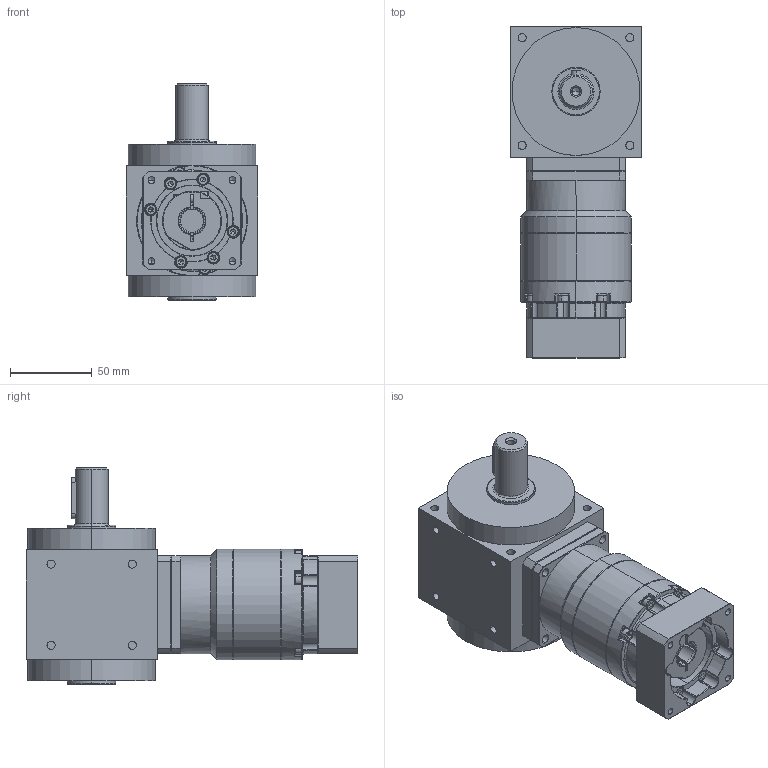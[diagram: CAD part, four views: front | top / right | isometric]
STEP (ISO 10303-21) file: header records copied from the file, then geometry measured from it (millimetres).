
FILE_DESCRIPTION (( 'STEP AP203' ), '1' );
FILE_NAME ('AAW080AS-L2-P 14-50-70-M5.STEP', '2024-12-23T09:28:02', ( '' ), ( '' ), 'SwSTEP 2.0', 'SolidWorks 2021', '' );
FILE_SCHEMA (( 'CONFIG_CONTROL_DESIGN' ));
Length unit declared in the file: millimetre
Products named in the file (3): AAW080AS-P; AAW080AS-L2-P 14-50-70-M5; VRB-060-L2-S2-P1 14-50-70-M5
Assembly tree (2 placements, depth 2):
  AAW080AS-L2-P 14-50-70-M5
    AAW080AS-P
    VRB-060-L2-S2-P1 14-50-70-M5
Bounding box: 80 x 202.5 x 132 mm (x, y, z)
Volume: 856638.6 mm3; surface area: 124338.3 mm2
Topology: 33 solids, 33 shells, 1061 faces, 2558 edges, 1586 vertices
Faces by surface type: plane 416, cylinder 375, cone 202, torus 50, bspline 18
Entity records: 32009 total; most frequent: CARTESIAN_POINT 6790, DIRECTION 5525, ORIENTED_EDGE 5016, EDGE_CURVE 2508, AXIS2_PLACEMENT_3D 2206, VERTEX_POINT 1586, EDGE_LOOP 1178, CIRCLE 1158
